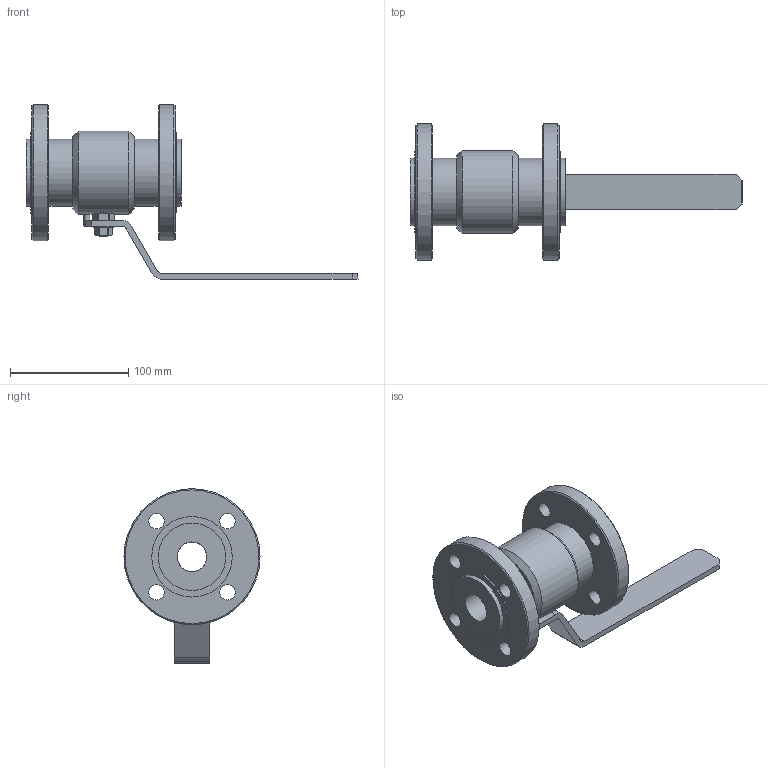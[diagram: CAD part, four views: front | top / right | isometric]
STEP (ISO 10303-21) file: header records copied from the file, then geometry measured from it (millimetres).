
FILE_DESCRIPTION(('STEP AP203'), '1');
FILE_NAME('ZARDP 025.040.22.P.stp', '2013-12-05T13:09:16', ('User'), ('Computer'), 'ASCON STEP Converter 1.3', 'Kompas 3D', '');
FILE_SCHEMA(('CONFIG_CONTROL_DESIGN','SUPPORT_RESOURCE_SCHEMA'));
Length unit declared in the file: millimetre
Products named in the file (1): 218
Bounding box: 280.5 x 115 x 147.5 mm (x, y, z)
Volume: 547261.1 mm3; surface area: 104839.7 mm2
Topology: 1 solids, 3 shells, 163 faces, 380 edges, 236 vertices
Faces by surface type: plane 82, cylinder 51, cone 27, torus 3
Full cylindrical faces by diameter (mm): 5 x2, 8 x2, 10.7 x1, 10.917 x1, 12 x1, 12.1 x1, 13 x8, 19.8 x1, 20 x3, 25 x2, 48.4 x1, 57 x4, 68 x2, 70 x1, 115 x2
Entity records: 5699 total; most frequent: CARTESIAN_POINT 1752, DIRECTION 847, ORIENTED_EDGE 760, EDGE_CURVE 380, AXIS2_PLACEMENT_3D 328, VERTEX_POINT 236, EDGE_LOOP 204, LINE 191
